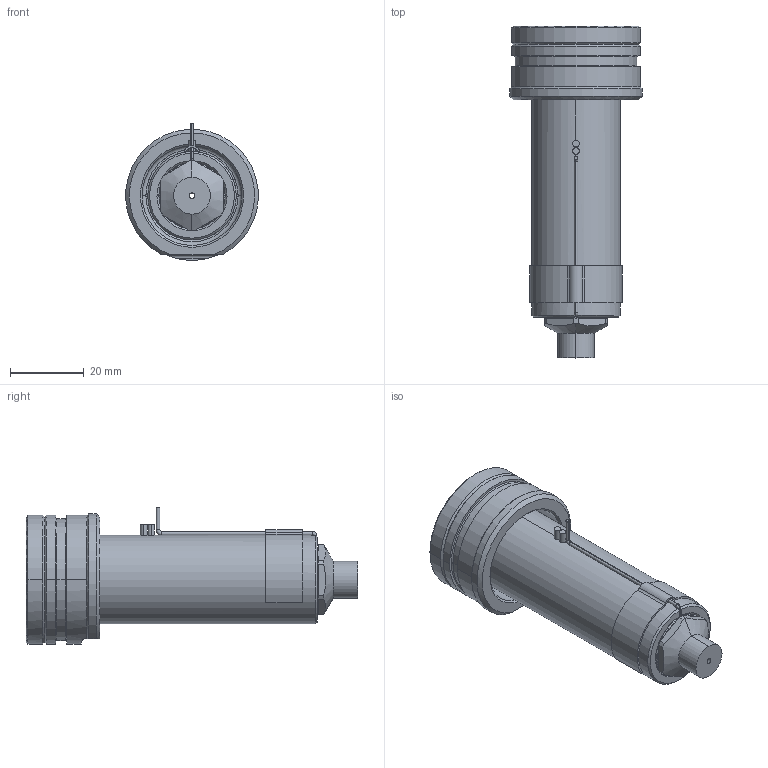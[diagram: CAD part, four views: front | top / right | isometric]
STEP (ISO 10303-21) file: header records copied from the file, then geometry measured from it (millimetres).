
FILE_DESCRIPTION((''),'2;1');
FILE_NAME('EO06_VG-FB_STD_070_SW','2024-02-19T13:23:27',('sundharh'),(''),'CREO PARAMETRIC BY PTC INC, 2023154','CREO PARAMETRIC BY PTC INC, 2023154','');
FILE_SCHEMA(('CONFIG_CONTROL_DESIGN'));
Length unit declared in the file: millimetre
Products named in the file (1): EO06_VG-FB_STD_070_SW
Bounding box: 35.93 x 90 x 37 mm (x, y, z)
Volume: 43166.2 mm3; surface area: 13953.8 mm2
Topology: 2 solids, 2 shells, 203 faces, 502 edges, 301 vertices
Faces by surface type: cylinder 76, plane 42, cone 38, torus 29, bspline 16, sphere 2
Entity records: 6895 total; most frequent: CARTESIAN_POINT 2016, DIRECTION 1092, ORIENTED_EDGE 992, EDGE_CURVE 496, AXIS2_PLACEMENT_3D 462, VERTEX_POINT 301, CIRCLE 275, EDGE_LOOP 217
